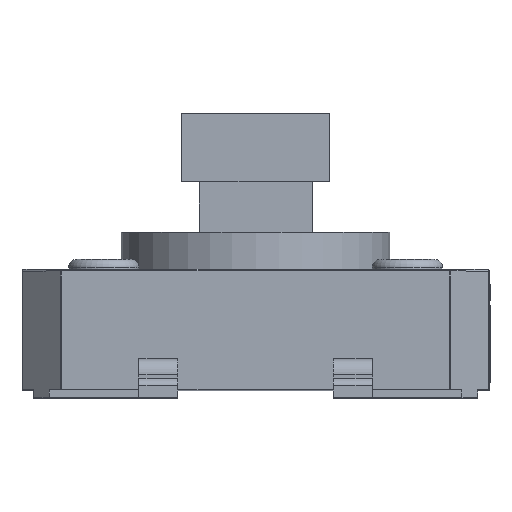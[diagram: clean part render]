
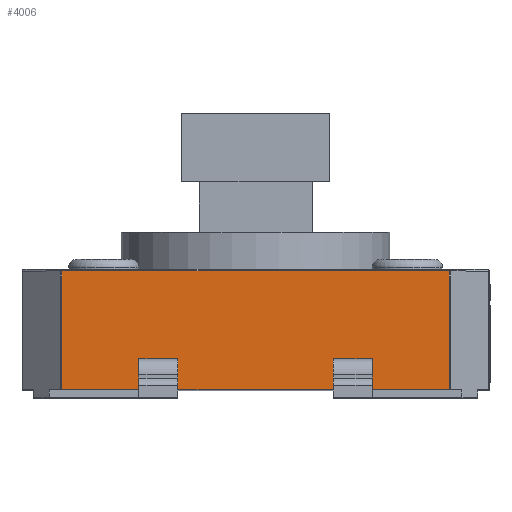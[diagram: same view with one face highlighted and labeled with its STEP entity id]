
A CAD part, top view. The second image highlights one B-rep face of the part: STEP entity #4006.
In plain terms, the highlighted planar face has unit normal (0, 0, 1).
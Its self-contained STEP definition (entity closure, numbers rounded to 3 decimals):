
#555=DIRECTION('',(-1.,0.,0.));
#556=VECTOR('',#555,9.959);
#557=CARTESIAN_POINT('',(4.979,0.2,6.));
#558=LINE('',#557,#556);
#559=DIRECTION('',(0.,-1.,0.));
#560=VECTOR('',#559,3.05);
#561=CARTESIAN_POINT('',(4.979,3.25,6.));
#562=LINE('',#561,#560);
#567=DIRECTION('',(0.,-1.,0.));
#568=VECTOR('',#567,3.05);
#569=CARTESIAN_POINT('',(-4.979,3.25,6.));
#570=LINE('',#569,#568);
#791=DIRECTION('',(-1.,0.,0.));
#792=VECTOR('',#791,9.959);
#793=CARTESIAN_POINT('',(4.979,3.25,6.));
#794=LINE('',#793,#792);
#1483=DIRECTION('',(0.,1.,0.));
#1484=VECTOR('',#1483,0.3);
#1485=CARTESIAN_POINT('',(2.,0.7,6.));
#1486=LINE('',#1485,#1484);
#1491=DIRECTION('',(1.,0.,0.));
#1492=VECTOR('',#1491,1.);
#1493=CARTESIAN_POINT('',(2.,1.,6.));
#1494=LINE('',#1493,#1492);
#1499=DIRECTION('',(0.,-1.,0.));
#1500=VECTOR('',#1499,0.3);
#1501=CARTESIAN_POINT('',(3.,1.,6.));
#1502=LINE('',#1501,#1500);
#1531=DIRECTION('',(-1.,0.,0.));
#1532=VECTOR('',#1531,1.);
#1533=CARTESIAN_POINT('',(3.,0.7,6.));
#1534=LINE('',#1533,#1532);
#1635=DIRECTION('',(0.,1.,0.));
#1636=VECTOR('',#1635,0.3);
#1637=CARTESIAN_POINT('',(-3.,0.7,6.));
#1638=LINE('',#1637,#1636);
#1643=DIRECTION('',(1.,0.,0.));
#1644=VECTOR('',#1643,1.);
#1645=CARTESIAN_POINT('',(-3.,1.,6.));
#1646=LINE('',#1645,#1644);
#1651=DIRECTION('',(0.,-1.,0.));
#1652=VECTOR('',#1651,0.3);
#1653=CARTESIAN_POINT('',(-2.,1.,6.));
#1654=LINE('',#1653,#1652);
#1683=DIRECTION('',(-1.,0.,0.));
#1684=VECTOR('',#1683,1.);
#1685=CARTESIAN_POINT('',(-2.,0.7,6.));
#1686=LINE('',#1685,#1684);
#2571=CARTESIAN_POINT('',(-4.979,0.2,6.));
#2572=VERTEX_POINT('',#2571);
#2573=CARTESIAN_POINT('',(4.979,0.2,6.));
#2575=VERTEX_POINT('',#2573);
#2677=CARTESIAN_POINT('',(4.979,3.25,6.));
#2678=VERTEX_POINT('',#2677);
#2681=CARTESIAN_POINT('',(2.,0.7,6.));
#2682=CARTESIAN_POINT('',(2.,1.,6.));
#2683=VERTEX_POINT('',#2681);
#2684=VERTEX_POINT('',#2682);
#2685=CARTESIAN_POINT('',(3.,1.,6.));
#2686=VERTEX_POINT('',#2685);
#2687=CARTESIAN_POINT('',(-3.,0.7,6.));
#2688=CARTESIAN_POINT('',(-3.,1.,6.));
#2689=VERTEX_POINT('',#2687);
#2690=VERTEX_POINT('',#2688);
#2691=CARTESIAN_POINT('',(-2.,1.,6.));
#2692=VERTEX_POINT('',#2691);
#2695=CARTESIAN_POINT('',(-4.979,3.25,6.));
#2696=VERTEX_POINT('',#2695);
#2943=CARTESIAN_POINT('',(3.,0.7,6.));
#2944=VERTEX_POINT('',#2943);
#2985=CARTESIAN_POINT('',(-2.,0.7,6.));
#2986=VERTEX_POINT('',#2985);
#3973=CARTESIAN_POINT('',(0.,1.725,6.));
#3974=DIRECTION('',(0.,0.,1.));
#3975=DIRECTION('',(1.,0.,0.));
#3976=AXIS2_PLACEMENT_3D('',#3973,#3974,#3975);
#3977=PLANE('',#3976);
#3978=ORIENTED_EDGE('',*,*,#3430,.T.);
#3980=ORIENTED_EDGE('',*,*,#3979,.F.);
#3982=ORIENTED_EDGE('',*,*,#3981,.F.);
#3983=ORIENTED_EDGE('',*,*,#3965,.T.);
#3984=EDGE_LOOP('',(#3978,#3980,#3982,#3983));
#3985=FACE_OUTER_BOUND('',#3984,.F.);
#3987=ORIENTED_EDGE('',*,*,#3986,.F.);
#3989=ORIENTED_EDGE('',*,*,#3988,.F.);
#3991=ORIENTED_EDGE('',*,*,#3990,.F.);
#3993=ORIENTED_EDGE('',*,*,#3992,.F.);
#3994=EDGE_LOOP('',(#3987,#3989,#3991,#3993));
#3995=FACE_BOUND('',#3994,.F.);
#3997=ORIENTED_EDGE('',*,*,#3996,.F.);
#3999=ORIENTED_EDGE('',*,*,#3998,.F.);
#4001=ORIENTED_EDGE('',*,*,#4000,.F.);
#4003=ORIENTED_EDGE('',*,*,#4002,.F.);
#4004=EDGE_LOOP('',(#3997,#3999,#4001,#4003));
#4005=FACE_BOUND('',#4004,.F.);
#3430=EDGE_CURVE('',#2575,#2572,#558,.T.);
#3965=EDGE_CURVE('',#2678,#2575,#562,.T.);
#3979=EDGE_CURVE('',#2696,#2572,#570,.T.);
#3981=EDGE_CURVE('',#2678,#2696,#794,.T.);
#3986=EDGE_CURVE('',#2683,#2684,#1486,.T.);
#3988=EDGE_CURVE('',#2944,#2683,#1534,.T.);
#3990=EDGE_CURVE('',#2686,#2944,#1502,.T.);
#3992=EDGE_CURVE('',#2684,#2686,#1494,.T.);
#3996=EDGE_CURVE('',#2689,#2690,#1638,.T.);
#3998=EDGE_CURVE('',#2986,#2689,#1686,.T.);
#4000=EDGE_CURVE('',#2692,#2986,#1654,.T.);
#4002=EDGE_CURVE('',#2690,#2692,#1646,.T.);
#4006=ADVANCED_FACE('',(#3985,#3995,#4005),#3977,.T.);
